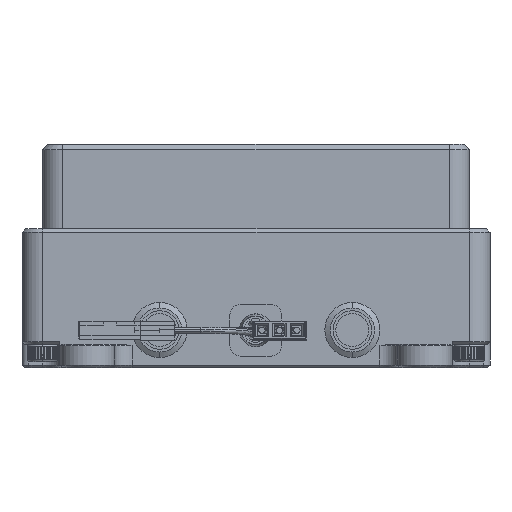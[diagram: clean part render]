
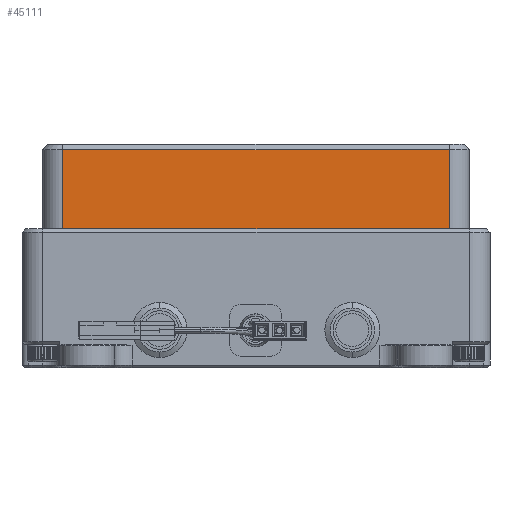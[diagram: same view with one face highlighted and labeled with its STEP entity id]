
A CAD part, left-side view. The second image highlights one B-rep face of the part: STEP entity #45111.
In plain terms, the highlighted planar face has unit normal (-1, 0, 0).
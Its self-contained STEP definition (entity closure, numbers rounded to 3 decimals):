
#379=DIRECTION('',(0.,-1.,0.));
#380=VECTOR('',#379,56.1);
#381=CARTESIAN_POINT('',(-58.5,28.05,14.7));
#382=LINE('',#381,#380);
#945=DIRECTION('',(0.,-1.,0.));
#946=VECTOR('',#945,56.1);
#947=CARTESIAN_POINT('',(-58.5,28.05,26.2));
#948=LINE('',#947,#946);
#949=DIRECTION('',(0.,0.,-1.));
#950=VECTOR('',#949,11.5);
#951=CARTESIAN_POINT('',(-58.5,-28.05,26.2));
#952=LINE('',#951,#950);
#953=DIRECTION('',(0.,0.,-1.));
#954=VECTOR('',#953,11.5);
#955=CARTESIAN_POINT('',(-58.5,28.05,26.2));
#956=LINE('',#955,#954);
#37770=CARTESIAN_POINT('',(-58.5,28.05,14.7));
#37771=CARTESIAN_POINT('',(-58.5,-28.05,14.7));
#37772=VERTEX_POINT('',#37770);
#37773=VERTEX_POINT('',#37771);
#37798=CARTESIAN_POINT('',(-58.5,-28.05,26.2));
#37800=VERTEX_POINT('',#37798);
#37804=CARTESIAN_POINT('',(-58.5,28.05,
26.2));
#37805=VERTEX_POINT('',#37804);
#45099=CARTESIAN_POINT('',(-58.5,31.05,14.7));
#45100=DIRECTION('',(-1.,0.,0.));
#45101=DIRECTION('',(0.,-1.,0.));
#45102=AXIS2_PLACEMENT_3D('',#45099,#45100,#45101);
#45103=PLANE('',#45102);
#45104=ORIENTED_EDGE('',*,*,#44913,.T.);
#45105=ORIENTED_EDGE('',*,*,#45094,.T.);
#45106=ORIENTED_EDGE('',*,*,#44461,.F.);
#45108=ORIENTED_EDGE('',*,*,#45107,.F.);
#45109=EDGE_LOOP('',(#45104,#45105,#45106,#45108));
#45110=FACE_OUTER_BOUND('',#45109,.F.);
#45111=ADVANCED_FACE('',(#45110),#45103,.T.);
#44461=EDGE_CURVE('',#37772,#37773,#382,.T.);
#44913=EDGE_CURVE('',#37805,#37800,#948,.T.);
#45094=EDGE_CURVE('',#37800,#37773,#952,.T.);
#45107=EDGE_CURVE('',#37805,#37772,#956,.T.);
